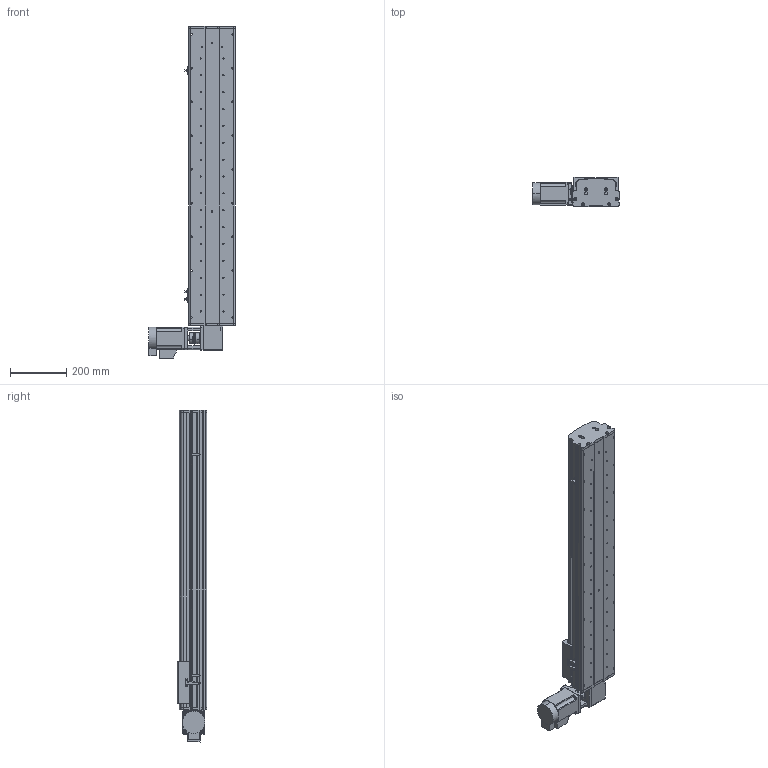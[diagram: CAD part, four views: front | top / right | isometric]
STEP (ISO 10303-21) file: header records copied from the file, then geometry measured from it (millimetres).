
FILE_DESCRIPTION (( 'STEP AP214' ), '1' );
FILE_NAME ('KSD165B-S800-MRT-CM.STEP', '2017-10-17T01:24:31', ( '微软用户' ), ( '微软中国' ), 'SwSTEP 2.0', 'SolidWorks 2014', '' );
FILE_SCHEMA (( 'AUTOMOTIVE_DESIGN' ));
Length unit declared in the file: millimetre
Products named in the file (16): U倰嫖萇假蚾璃; U倰嫖萇EEㄜSX672; 覜茼え68遵圉猾敕; KSD165模组-同步带-防撞垫2; KSD165模组同步带-防撞垫1; KSD165耀郪-ヶ傷啣1-肮祭湍; KSD165模组-后端板1-同步带; 130宽马达安装板1-带电机座750W（1）; KSD165模组-同步带滑动座-最新版; KSD165B-S800-MRT-CM; 165宽马达安装板同步带左-改; KSD165模组-同步带防尘盖1-800行程-最新版; KSD165模组同步带底板-800行程-最新; 拸秶雄ん750W侜督萇儂; 165宽安装板同步带带电机座750W; C39ㄜ1419WP
Assembly tree (19 placements, depth 2):
  KSD165B-S800-MRT-CM
    KSD165模组-同步带滑动座-最新版
    130宽马达安装板1-带电机座750W（1）
    KSD165模组-后端板1-同步带
    KSD165耀郪-ヶ傷啣1-肮祭湍
    KSD165模组同步带-防撞垫1
    KSD165模组-同步带-防撞垫2
    覜茼え68遵圉猾敕
    U倰嫖萇EEㄜSX672  x3
    U倰嫖萇假蚾璃  x3
    C39ㄜ1419WP
    165宽安装板同步带带电机座750W
    拸秶雄ん750W侜督萇儂
    KSD165模组同步带底板-800行程-最新
    KSD165模组-同步带防尘盖1-800行程-最新版
    165宽马达安装板同步带左-改
Bounding box: 307.5 x 104 x 1181.06 mm (x, y, z)
Volume: 6984583.4 mm3; surface area: 1568727.9 mm2
Topology: 20 solids, 21 shells, 1482 faces, 4116 edges, 2665 vertices
Faces by surface type: cylinder 809, plane 579, cone 94
Entity records: 46995 total; most frequent: CARTESIAN_POINT 9847, DIRECTION 7314, ORIENTED_EDGE 6884, EDGE_CURVE 3442, AXIS2_PLACEMENT_3D 2780, VERTEX_POINT 2257, LINE 1754, VECTOR 1754
